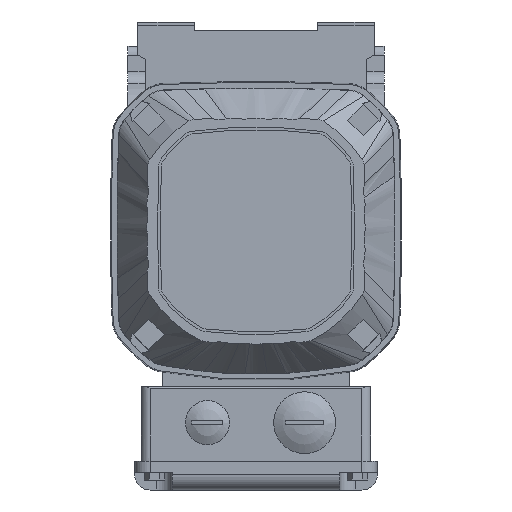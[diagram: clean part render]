
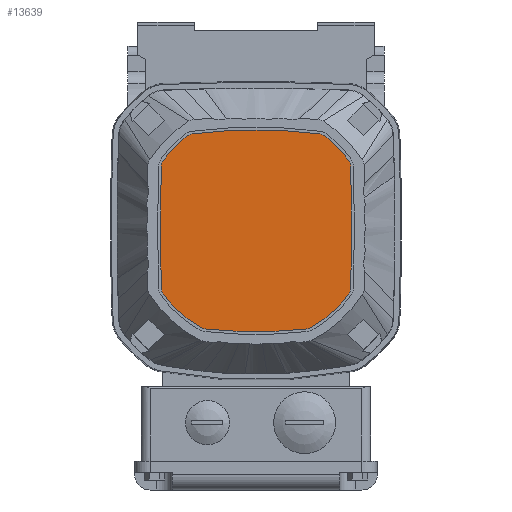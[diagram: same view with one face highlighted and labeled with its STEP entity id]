
A CAD part, left-side view. The second image highlights one B-rep face of the part: STEP entity #13639.
In plain terms, the highlighted planar face has unit normal (-1, 0, 0).
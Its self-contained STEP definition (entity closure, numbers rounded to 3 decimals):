
#534=PLANE('',#14521);
#1011=FACE_OUTER_BOUND('',#1760,.T.);
#1760=EDGE_LOOP('',(#9895,#9896,#9897,#9898,#9899,#9900,#9901,#9902,#9903,
#9904,#9905,#9906,#9907,#9908,#9909,#9910));
#5220=CIRCLE('',#14366,209.8);
#5221=CIRCLE('',#14368,212.8);
#5288=CIRCLE('',#14522,51.8);
#5289=CIRCLE('',#14523,4.8);
#5290=CIRCLE('',#14524,4.8);
#5291=CIRCLE('',#14525,51.8);
#5292=CIRCLE('',#14526,4.8);
#5293=CIRCLE('',#14527,1047.2);
#5294=CIRCLE('',#14528,4.8);
#5295=CIRCLE('',#14529,51.8);
#5296=CIRCLE('',#14530,4.8);
#5297=CIRCLE('',#14531,4.8);
#5298=CIRCLE('',#14532,51.8);
#5299=CIRCLE('',#14533,4.8);
#5300=CIRCLE('',#14534,1047.2);
#5301=CIRCLE('',#14535,4.8);
#5875=VERTEX_POINT('',#20053);
#5876=VERTEX_POINT('',#20055);
#5877=VERTEX_POINT('',#20059);
#5878=VERTEX_POINT('',#20060);
#6082=VERTEX_POINT('',#20645);
#6083=VERTEX_POINT('',#20646);
#6084=VERTEX_POINT('',#20649);
#6085=VERTEX_POINT('',#20651);
#6086=VERTEX_POINT('',#20653);
#6087=VERTEX_POINT('',#20655);
#6088=VERTEX_POINT('',#20657);
#6089=VERTEX_POINT('',#20659);
#6090=VERTEX_POINT('',#20662);
#6091=VERTEX_POINT('',#20664);
#6092=VERTEX_POINT('',#20666);
#6093=VERTEX_POINT('',#20668);
#7280=EDGE_CURVE('',#5875,#5876,#5220,.T.);
#7282=EDGE_CURVE('',#5877,#5878,#5221,.T.);
#7572=EDGE_CURVE('',#6082,#6083,#5288,.T.);
#7573=EDGE_CURVE('',#5878,#6082,#5289,.T.);
#7574=EDGE_CURVE('',#6084,#5877,#5290,.T.);
#7575=EDGE_CURVE('',#6085,#6084,#5291,.T.);
#7576=EDGE_CURVE('',#6086,#6085,#5292,.T.);
#7577=EDGE_CURVE('',#6087,#6086,#5293,.T.);
#7578=EDGE_CURVE('',#6088,#6087,#5294,.T.);
#7579=EDGE_CURVE('',#6089,#6088,#5295,.T.);
#7580=EDGE_CURVE('',#5876,#6089,#5296,.T.);
#7581=EDGE_CURVE('',#6090,#5875,#5297,.T.);
#7582=EDGE_CURVE('',#6091,#6090,#5298,.T.);
#7583=EDGE_CURVE('',#6092,#6091,#5299,.T.);
#7584=EDGE_CURVE('',#6093,#6092,#5300,.T.);
#7585=EDGE_CURVE('',#6083,#6093,#5301,.T.);
#9895=ORIENTED_EDGE('',*,*,#7572,.F.);
#9896=ORIENTED_EDGE('',*,*,#7573,.F.);
#9897=ORIENTED_EDGE('',*,*,#7282,.F.);
#9898=ORIENTED_EDGE('',*,*,#7574,.F.);
#9899=ORIENTED_EDGE('',*,*,#7575,.F.);
#9900=ORIENTED_EDGE('',*,*,#7576,.F.);
#9901=ORIENTED_EDGE('',*,*,#7577,.F.);
#9902=ORIENTED_EDGE('',*,*,#7578,.F.);
#9903=ORIENTED_EDGE('',*,*,#7579,.F.);
#9904=ORIENTED_EDGE('',*,*,#7580,.F.);
#9905=ORIENTED_EDGE('',*,*,#7280,.F.);
#9906=ORIENTED_EDGE('',*,*,#7581,.F.);
#9907=ORIENTED_EDGE('',*,*,#7582,.F.);
#9908=ORIENTED_EDGE('',*,*,#7583,.F.);
#9909=ORIENTED_EDGE('',*,*,#7584,.F.);
#9910=ORIENTED_EDGE('',*,*,#7585,.F.);
#13639=ADVANCED_FACE('',(#1011),#534,.T.);
#14366=AXIS2_PLACEMENT_3D('',#20056,#15795,#15796);
#14368=AXIS2_PLACEMENT_3D('',#20061,#15800,#15801);
#14521=AXIS2_PLACEMENT_3D('',#20644,#16327,#16328);
#14522=AXIS2_PLACEMENT_3D('',#20647,#16329,#16330);
#14523=AXIS2_PLACEMENT_3D('',#20648,#16331,#16332);
#14524=AXIS2_PLACEMENT_3D('',#20650,#16333,#16334);
#14525=AXIS2_PLACEMENT_3D('',#20652,#16335,#16336);
#14526=AXIS2_PLACEMENT_3D('',#20654,#16337,#16338);
#14527=AXIS2_PLACEMENT_3D('',#20656,#16339,#16340);
#14528=AXIS2_PLACEMENT_3D('',#20658,#16341,#16342);
#14529=AXIS2_PLACEMENT_3D('',#20660,#16343,#16344);
#14530=AXIS2_PLACEMENT_3D('',#20661,#16345,#16346);
#14531=AXIS2_PLACEMENT_3D('',#20663,#16347,#16348);
#14532=AXIS2_PLACEMENT_3D('',#20665,#16349,#16350);
#14533=AXIS2_PLACEMENT_3D('',#20667,#16351,#16352);
#14534=AXIS2_PLACEMENT_3D('',#20669,#16353,#16354);
#14535=AXIS2_PLACEMENT_3D('',#20670,#16355,#16356);
#15795=DIRECTION('center_axis',(1.,0.,0.));
#15796=DIRECTION('ref_axis',(0.,0.,
1.));
#15800=DIRECTION('center_axis',(1.,0.,0.));
#15801=DIRECTION('ref_axis',(0.,0.,
1.));
#16327=DIRECTION('center_axis',(-1.,0.,0.));
#16328=DIRECTION('ref_axis',(0.,-1.,0.));
#16329=DIRECTION('center_axis',(1.,0.,0.));
#16330=DIRECTION('ref_axis',(0.,0.,
1.));
#16331=DIRECTION('center_axis',(1.,0.,0.));
#16332=DIRECTION('ref_axis',(0.,0.,
1.));
#16333=DIRECTION('center_axis',(1.,0.,0.));
#16334=DIRECTION('ref_axis',(0.,0.,
1.));
#16335=DIRECTION('center_axis',(1.,0.,0.));
#16336=DIRECTION('ref_axis',(0.,0.,
1.));
#16337=DIRECTION('center_axis',(1.,0.,0.));
#16338=DIRECTION('ref_axis',(0.,0.,
1.));
#16339=DIRECTION('center_axis',(1.,0.,0.));
#16340=DIRECTION('ref_axis',(0.,0.,
1.));
#16341=DIRECTION('center_axis',(1.,0.,0.));
#16342=DIRECTION('ref_axis',(0.,0.,
1.));
#16343=DIRECTION('center_axis',(1.,0.,0.));
#16344=DIRECTION('ref_axis',(0.,0.,
1.));
#16345=DIRECTION('center_axis',(1.,0.,0.));
#16346=DIRECTION('ref_axis',(0.,0.,
1.));
#16347=DIRECTION('center_axis',(1.,0.,0.));
#16348=DIRECTION('ref_axis',(0.,0.,
1.));
#16349=DIRECTION('center_axis',(1.,0.,0.));
#16350=DIRECTION('ref_axis',(0.,0.,
1.));
#16351=DIRECTION('center_axis',(1.,0.,0.));
#16352=DIRECTION('ref_axis',(0.,0.,
1.));
#16353=DIRECTION('center_axis',(1.,0.,0.));
#16354=DIRECTION('ref_axis',(0.,0.,
1.));
#16355=DIRECTION('center_axis',(1.,0.,0.));
#16356=DIRECTION('ref_axis',(0.,0.,
1.));
#20053=CARTESIAN_POINT('',(-294.2,28.942,12.294));
#20055=CARTESIAN_POINT('',(-294.2,-28.942,12.294));
#20056=CARTESIAN_POINT('Origin',(-294.2,0.,
-195.5));
#20059=CARTESIAN_POINT('',(-294.2,-22.984,-76.055));
#20060=CARTESIAN_POINT('',(-294.2,22.984,-76.055));
#20061=CARTESIAN_POINT('Origin',(-294.2,0.,
135.5));
#20644=CARTESIAN_POINT('Origin',(-294.2,21.966,-16.09));
#20645=CARTESIAN_POINT('',(-294.2,24.76,-75.499));
#20646=CARTESIAN_POINT('',(-294.2,41.978,-60.349));
#20647=CARTESIAN_POINT('Origin',(-294.2,0.,-30.));
#20648=CARTESIAN_POINT('Origin',(-294.2,22.465,-71.283));
#20649=CARTESIAN_POINT('',(-294.2,-24.76,-75.499));
#20650=CARTESIAN_POINT('Origin',(-294.2,-22.465,-71.283));
#20651=CARTESIAN_POINT('',(-294.2,-41.978,-60.349));
#20652=CARTESIAN_POINT('Origin',(-294.2,0.,-30.));
#20653=CARTESIAN_POINT('',(-294.2,-42.886,-57.664));
#20654=CARTESIAN_POINT('Origin',(-294.2,-38.088,-57.537));
#20655=CARTESIAN_POINT('',(-294.2,-42.886,-2.336));
#20656=CARTESIAN_POINT('Origin',(-294.2,1003.948,-30.));
#20657=CARTESIAN_POINT('',(-294.2,-41.978,0.349));
#20658=CARTESIAN_POINT('Origin',(-294.2,-38.088,-2.463));
#20659=CARTESIAN_POINT('',(-294.2,-31.168,11.374));
#20660=CARTESIAN_POINT('Origin',(-294.2,0.,-30.));
#20661=CARTESIAN_POINT('Origin',(-294.2,-28.28,7.54));
#20662=CARTESIAN_POINT('',(-294.2,31.168,11.374));
#20663=CARTESIAN_POINT('Origin',(-294.2,28.28,7.54));
#20664=CARTESIAN_POINT('',(-294.2,41.978,0.349));
#20665=CARTESIAN_POINT('Origin',(-294.2,0.,-30.));
#20666=CARTESIAN_POINT('',(-294.2,42.886,-2.336));
#20667=CARTESIAN_POINT('Origin',(-294.2,38.088,-2.463));
#20668=CARTESIAN_POINT('',(-294.2,42.886,-57.664));
#20669=CARTESIAN_POINT('Origin',(-294.2,-1003.948,-30.));
#20670=CARTESIAN_POINT('Origin',(-294.2,38.088,-57.537));
